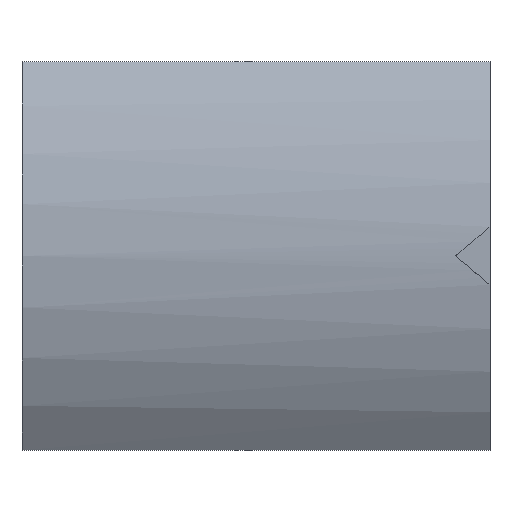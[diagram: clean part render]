
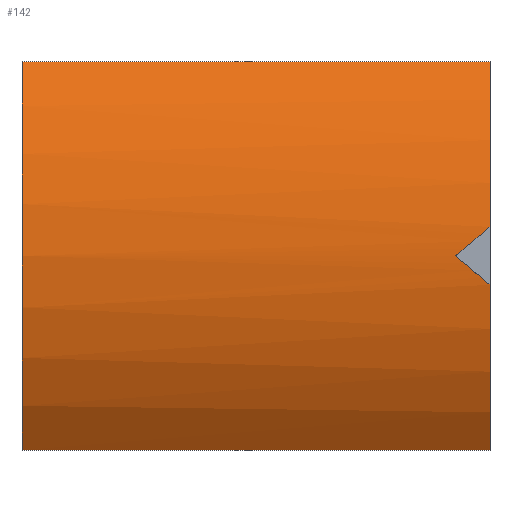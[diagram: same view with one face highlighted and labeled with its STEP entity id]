
A CAD part, top view. The second image highlights one B-rep face of the part: STEP entity #142.
In plain terms, the highlighted cylindrical face has radius 18.9 mm (diameter 37.8 mm), a partial arc.
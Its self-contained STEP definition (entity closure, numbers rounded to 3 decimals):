
#24 = VERTEX_POINT('',#25);
#25 = CARTESIAN_POINT('',(157.7,-11.115,15.286));
#32 = PLANE('',#33);
#33 = AXIS2_PLACEMENT_3D('',#34,#35,#36);
#34 = CARTESIAN_POINT('',(157.7,-11.115,14.2));
#35 = DIRECTION('',(1.,0.,-0.));
#36 = DIRECTION('',(0.,0.,1.));
#44 = PLANE('',#45);
#45 = AXIS2_PLACEMENT_3D('',#46,#47,#48);
#46 = CARTESIAN_POINT('',(157.7,-11.115,14.2));
#47 = DIRECTION('',(-0.,1.,0.));
#48 = DIRECTION('',(0.,0.,1.));
#85 = VERTEX_POINT('',#86);
#86 = CARTESIAN_POINT('',(157.7,11.115,15.286));
#100 = PLANE('',#101);
#101 = AXIS2_PLACEMENT_3D('',#102,#103,#104);
#102 = CARTESIAN_POINT('',(157.7,11.115,14.2));
#103 = DIRECTION('',(-0.,1.,0.));
#104 = DIRECTION('',(0.,0.,1.));
#112 = EDGE_CURVE('',#24,#85,#113,.T.);
#113 = SURFACE_CURVE('',#114,(#119,#130),.PCURVE_S1.);
#114 = CIRCLE('',#115,18.9);
#115 = AXIS2_PLACEMENT_3D('',#116,#117,#118);
#116 = CARTESIAN_POINT('',(157.7,0.,0.));
#117 = DIRECTION('',(-1.,0.,0.));
#118 = DIRECTION('',(0.,-0.588,0.809));
#119 = PCURVE('',#32,#120);
#120 = DEFINITIONAL_REPRESENTATION('',(#121),#129);
#121 = ( BOUNDED_CURVE() B_SPLINE_CURVE(2,(#122,#123,#124,#125,#126,#127
,#128),.UNSPECIFIED.,.T.,.F.) B_SPLINE_CURVE_WITH_KNOTS((1,2,2,2,2,1),(
    -2.094,0.,2.094,4.189,6.283,
8.378),.UNSPECIFIED.) CURVE() GEOMETRIC_REPRESENTATION_ITEM() 
RATIONAL_B_SPLINE_CURVE((1.,0.5,1.,0.5,1.,0.5,1.)) REPRESENTATION_ITEM(
  '') );
#122 = CARTESIAN_POINT('',(1.086,0.));
#123 = CARTESIAN_POINT('',(20.338,-26.476));
#124 = CARTESIAN_POINT('',(-12.217,-29.911));
#125 = CARTESIAN_POINT('',(-44.772,-33.346));
#126 = CARTESIAN_POINT('',(-31.469,-3.435));
#127 = CARTESIAN_POINT('',(-18.167,26.476));
#128 = CARTESIAN_POINT('',(1.086,0.));
#129 = ( GEOMETRIC_REPRESENTATION_CONTEXT(2) 
PARAMETRIC_REPRESENTATION_CONTEXT() REPRESENTATION_CONTEXT('2D SPACE',''
  ) );
#130 = PCURVE('',#131,#136);
#131 = CYLINDRICAL_SURFACE('',#132,18.9);
#132 = AXIS2_PLACEMENT_3D('',#133,#134,#135);
#133 = CARTESIAN_POINT('',(140.5,0.,0.));
#134 = DIRECTION('',(1.,0.,0.));
#135 = DIRECTION('',(-0.,0.,1.));
#136 = DEFINITIONAL_REPRESENTATION('',(#137),#141);
#137 = LINE('',#138,#139);
#138 = CARTESIAN_POINT('',(6.912,17.2));
#139 = VECTOR('',#140,1.);
#140 = DIRECTION('',(-1.,-0.));
#141 = ( GEOMETRIC_REPRESENTATION_CONTEXT(2) 
PARAMETRIC_REPRESENTATION_CONTEXT() REPRESENTATION_CONTEXT('2D SPACE',''
  ) );
#142 = ADVANCED_FACE('',(#143),#131,.T.);
#143 = FACE_BOUND('',#144,.T.);
#144 = EDGE_LOOP('',(#145,#175,#207,#239,#262,#281,#282));
#145 = ORIENTED_EDGE('',*,*,#146,.F.);
#146 = EDGE_CURVE('',#147,#149,#151,.T.);
#147 = VERTEX_POINT('',#148);
#148 = CARTESIAN_POINT('',(184.5,-1.66,18.827));
#149 = VERTEX_POINT('',#150);
#150 = CARTESIAN_POINT('',(184.5,-11.115,15.286));
#151 = SURFACE_CURVE('',#152,(#157,#163),.PCURVE_S1.);
#152 = CIRCLE('',#153,18.9);
#153 = AXIS2_PLACEMENT_3D('',#154,#155,#156);
#154 = CARTESIAN_POINT('',(184.5,0.,0.));
#155 = DIRECTION('',(1.,0.,0.));
#156 = DIRECTION('',(-0.,0.,1.));
#157 = PCURVE('',#131,#158);
#158 = DEFINITIONAL_REPRESENTATION('',(#159),#162);
#159 = B_SPLINE_CURVE_WITH_KNOTS('',1,(#160,#161),.UNSPECIFIED.,.F.,.F.,
  (2,2),(0.088,0.629),.PIECEWISE_BEZIER_KNOTS.);
#160 = CARTESIAN_POINT('',(6.371,44.));
#161 = CARTESIAN_POINT('',(6.912,44.));
#162 = ( GEOMETRIC_REPRESENTATION_CONTEXT(2) 
PARAMETRIC_REPRESENTATION_CONTEXT() REPRESENTATION_CONTEXT('2D SPACE',''
  ) );
#163 = PCURVE('',#164,#169);
#164 = PLANE('',#165);
#165 = AXIS2_PLACEMENT_3D('',#166,#167,#168);
#166 = CARTESIAN_POINT('',(184.5,-11.115,14.2));
#167 = DIRECTION('',(1.,0.,-0.));
#168 = DIRECTION('',(0.,0.,1.));
#169 = DEFINITIONAL_REPRESENTATION('',(#170),#174);
#170 = CIRCLE('',#171,18.9);
#171 = AXIS2_PLACEMENT_2D('',#172,#173);
#172 = CARTESIAN_POINT('',(-14.2,-11.115));
#173 = DIRECTION('',(1.,0.));
#174 = ( GEOMETRIC_REPRESENTATION_CONTEXT(2) 
PARAMETRIC_REPRESENTATION_CONTEXT() REPRESENTATION_CONTEXT('2D SPACE',''
  ) );
#175 = ORIENTED_EDGE('',*,*,#176,.T.);
#176 = EDGE_CURVE('',#147,#177,#179,.T.);
#177 = VERTEX_POINT('',#178);
#178 = CARTESIAN_POINT('',(182.522,0.,18.9));
#179 = SURFACE_CURVE('',#180,(#185,#195),.PCURVE_S1.);
#180 = ELLIPSE('',#181,29.403,18.9);
#181 = AXIS2_PLACEMENT_3D('',#182,#183,#184);
#182 = CARTESIAN_POINT('',(182.522,0.,0.));
#183 = DIRECTION('',(-0.643,-0.766,0.));
#184 = DIRECTION('',(0.766,-0.643,0.));
#185 = PCURVE('',#131,#186);
#186 = DEFINITIONAL_REPRESENTATION('',(#187),#194);
#187 = B_SPLINE_CURVE_WITH_KNOTS('',5,(#188,#189,#190,#191,#192,#193),
  .UNSPECIFIED.,.F.,.F.,(6,6),(1.483,1.571),
  .PIECEWISE_BEZIER_KNOTS.);
#188 = CARTESIAN_POINT('',(6.371,44.));
#189 = CARTESIAN_POINT('',(6.354,43.605));
#190 = CARTESIAN_POINT('',(6.336,43.21));
#191 = CARTESIAN_POINT('',(6.318,42.814));
#192 = CARTESIAN_POINT('',(6.301,42.418));
#193 = CARTESIAN_POINT('',(6.283,42.022));
#194 = ( GEOMETRIC_REPRESENTATION_CONTEXT(2) 
PARAMETRIC_REPRESENTATION_CONTEXT() REPRESENTATION_CONTEXT('2D SPACE',''
  ) );
#195 = PCURVE('',#196,#201);
#196 = PLANE('',#197);
#197 = AXIS2_PLACEMENT_3D('',#198,#199,#200);
#198 = CARTESIAN_POINT('',(185.443,-2.451,17.9));
#199 = DIRECTION('',(-0.643,-0.766,0.));
#200 = DIRECTION('',(-0.766,0.643,0.));
#201 = DEFINITIONAL_REPRESENTATION('',(#202),#206);
#202 = ELLIPSE('',#203,29.403,18.9);
#203 = AXIS2_PLACEMENT_2D('',#204,#205);
#204 = CARTESIAN_POINT('',(3.814,17.9));
#205 = DIRECTION('',(-1.,-0.));
#206 = ( GEOMETRIC_REPRESENTATION_CONTEXT(2) 
PARAMETRIC_REPRESENTATION_CONTEXT() REPRESENTATION_CONTEXT('2D SPACE',''
  ) );
#207 = ORIENTED_EDGE('',*,*,#208,.T.);
#208 = EDGE_CURVE('',#177,#209,#211,.T.);
#209 = VERTEX_POINT('',#210);
#210 = CARTESIAN_POINT('',(184.5,1.66,18.827));
#211 = SURFACE_CURVE('',#212,(#217,#227),.PCURVE_S1.);
#212 = ELLIPSE('',#213,29.403,18.9);
#213 = AXIS2_PLACEMENT_3D('',#214,#215,#216);
#214 = CARTESIAN_POINT('',(182.522,0.,0.));
#215 = DIRECTION('',(-0.643,0.766,0.));
#216 = DIRECTION('',(0.766,0.643,0.));
#217 = PCURVE('',#131,#218);
#218 = DEFINITIONAL_REPRESENTATION('',(#219),#226);
#219 = B_SPLINE_CURVE_WITH_KNOTS('',5,(#220,#221,#222,#223,#224,#225),
  .UNSPECIFIED.,.F.,.F.,(6,6),(4.712,4.8),
  .PIECEWISE_BEZIER_KNOTS.);
#220 = CARTESIAN_POINT('',(6.283,42.022));
#221 = CARTESIAN_POINT('',(6.266,42.418));
#222 = CARTESIAN_POINT('',(6.248,42.814));
#223 = CARTESIAN_POINT('',(6.23,43.21));
#224 = CARTESIAN_POINT('',(6.213,43.605));
#225 = CARTESIAN_POINT('',(6.195,44.));
#226 = ( GEOMETRIC_REPRESENTATION_CONTEXT(2) 
PARAMETRIC_REPRESENTATION_CONTEXT() REPRESENTATION_CONTEXT('2D SPACE',''
  ) );
#227 = PCURVE('',#228,#233);
#228 = PLANE('',#229);
#229 = AXIS2_PLACEMENT_3D('',#230,#231,#232);
#230 = CARTESIAN_POINT('',(182.522,0.,17.9));
#231 = DIRECTION('',(-0.643,0.766,0.));
#232 = DIRECTION('',(0.766,0.643,0.));
#233 = DEFINITIONAL_REPRESENTATION('',(#234),#238);
#234 = ELLIPSE('',#235,29.403,18.9);
#235 = AXIS2_PLACEMENT_2D('',#236,#237);
#236 = CARTESIAN_POINT('',(0.,17.9));
#237 = DIRECTION('',(1.,0.));
#238 = ( GEOMETRIC_REPRESENTATION_CONTEXT(2) 
PARAMETRIC_REPRESENTATION_CONTEXT() REPRESENTATION_CONTEXT('2D SPACE',''
  ) );
#239 = ORIENTED_EDGE('',*,*,#240,.F.);
#240 = EDGE_CURVE('',#241,#209,#243,.T.);
#241 = VERTEX_POINT('',#242);
#242 = CARTESIAN_POINT('',(184.5,11.115,15.286));
#243 = SURFACE_CURVE('',#244,(#249,#255),.PCURVE_S1.);
#244 = CIRCLE('',#245,18.9);
#245 = AXIS2_PLACEMENT_3D('',#246,#247,#248);
#246 = CARTESIAN_POINT('',(184.5,0.,0.));
#247 = DIRECTION('',(1.,0.,0.));
#248 = DIRECTION('',(-0.,0.,1.));
#249 = PCURVE('',#131,#250);
#250 = DEFINITIONAL_REPRESENTATION('',(#251),#254);
#251 = B_SPLINE_CURVE_WITH_KNOTS('',1,(#252,#253),.UNSPECIFIED.,.F.,.F.,
  (2,2),(5.654,6.195),.PIECEWISE_BEZIER_KNOTS.);
#252 = CARTESIAN_POINT('',(5.654,44.));
#253 = CARTESIAN_POINT('',(6.195,44.));
#254 = ( GEOMETRIC_REPRESENTATION_CONTEXT(2) 
PARAMETRIC_REPRESENTATION_CONTEXT() REPRESENTATION_CONTEXT('2D SPACE',''
  ) );
#255 = PCURVE('',#164,#256);
#256 = DEFINITIONAL_REPRESENTATION('',(#257),#261);
#257 = CIRCLE('',#258,18.9);
#258 = AXIS2_PLACEMENT_2D('',#259,#260);
#259 = CARTESIAN_POINT('',(-14.2,-11.115));
#260 = DIRECTION('',(1.,0.));
#261 = ( GEOMETRIC_REPRESENTATION_CONTEXT(2) 
PARAMETRIC_REPRESENTATION_CONTEXT() REPRESENTATION_CONTEXT('2D SPACE',''
  ) );
#262 = ORIENTED_EDGE('',*,*,#263,.F.);
#263 = EDGE_CURVE('',#85,#241,#264,.T.);
#264 = SURFACE_CURVE('',#265,(#269,#275),.PCURVE_S1.);
#265 = LINE('',#266,#267);
#266 = CARTESIAN_POINT('',(140.5,11.115,15.286));
#267 = VECTOR('',#268,1.);
#268 = DIRECTION('',(1.,0.,0.));
#269 = PCURVE('',#131,#270);
#270 = DEFINITIONAL_REPRESENTATION('',(#271),#274);
#271 = B_SPLINE_CURVE_WITH_KNOTS('',1,(#272,#273),.UNSPECIFIED.,.F.,.F.,
  (2,2),(17.2,44.),.PIECEWISE_BEZIER_KNOTS.);
#272 = CARTESIAN_POINT('',(5.654,17.2));
#273 = CARTESIAN_POINT('',(5.654,44.));
#274 = ( GEOMETRIC_REPRESENTATION_CONTEXT(2) 
PARAMETRIC_REPRESENTATION_CONTEXT() REPRESENTATION_CONTEXT('2D SPACE',''
  ) );
#275 = PCURVE('',#100,#276);
#276 = DEFINITIONAL_REPRESENTATION('',(#277),#280);
#277 = B_SPLINE_CURVE_WITH_KNOTS('',1,(#278,#279),.UNSPECIFIED.,.F.,.F.,
  (2,2),(14.52,46.68),.PIECEWISE_BEZIER_KNOTS.);
#278 = CARTESIAN_POINT('',(1.086,-2.68));
#279 = CARTESIAN_POINT('',(1.086,29.48));
#280 = ( GEOMETRIC_REPRESENTATION_CONTEXT(2) 
PARAMETRIC_REPRESENTATION_CONTEXT() REPRESENTATION_CONTEXT('2D SPACE',''
  ) );
#281 = ORIENTED_EDGE('',*,*,#112,.F.);
#282 = ORIENTED_EDGE('',*,*,#283,.T.);
#283 = EDGE_CURVE('',#24,#149,#284,.T.);
#284 = SURFACE_CURVE('',#285,(#289,#295),.PCURVE_S1.);
#285 = LINE('',#286,#287);
#286 = CARTESIAN_POINT('',(140.5,-11.115,15.286));
#287 = VECTOR('',#288,1.);
#288 = DIRECTION('',(1.,0.,0.));
#289 = PCURVE('',#131,#290);
#290 = DEFINITIONAL_REPRESENTATION('',(#291),#294);
#291 = B_SPLINE_CURVE_WITH_KNOTS('',1,(#292,#293),.UNSPECIFIED.,.F.,.F.,
  (2,2),(17.2,44.),.PIECEWISE_BEZIER_KNOTS.);
#292 = CARTESIAN_POINT('',(6.912,17.2));
#293 = CARTESIAN_POINT('',(6.912,44.));
#294 = ( GEOMETRIC_REPRESENTATION_CONTEXT(2) 
PARAMETRIC_REPRESENTATION_CONTEXT() REPRESENTATION_CONTEXT('2D SPACE',''
  ) );
#295 = PCURVE('',#44,#296);
#296 = DEFINITIONAL_REPRESENTATION('',(#297),#300);
#297 = B_SPLINE_CURVE_WITH_KNOTS('',1,(#298,#299),.UNSPECIFIED.,.F.,.F.,
  (2,2),(14.52,46.68),.PIECEWISE_BEZIER_KNOTS.);
#298 = CARTESIAN_POINT('',(1.086,-2.68));
#299 = CARTESIAN_POINT('',(1.086,29.48));
#300 = ( GEOMETRIC_REPRESENTATION_CONTEXT(2) 
PARAMETRIC_REPRESENTATION_CONTEXT() REPRESENTATION_CONTEXT('2D SPACE',''
  ) );
